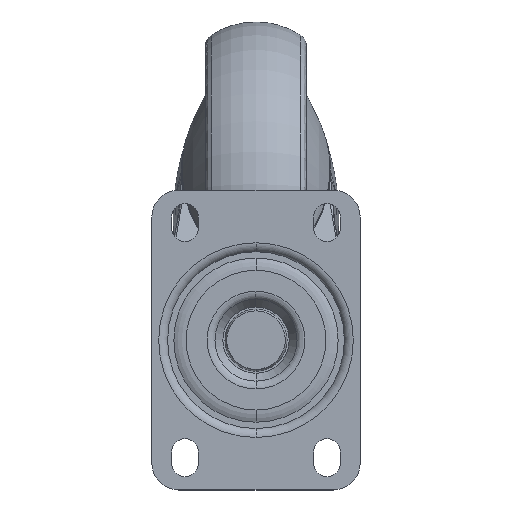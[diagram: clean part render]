
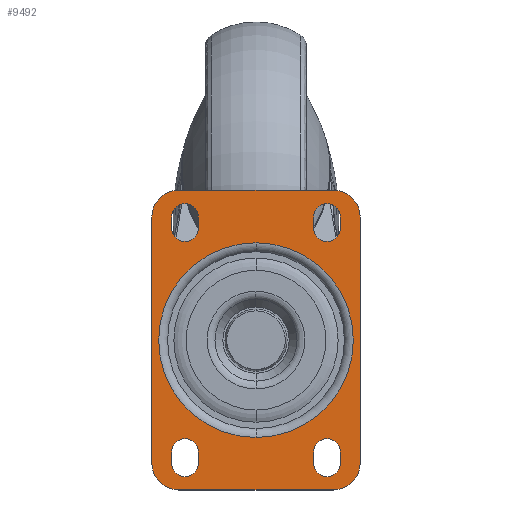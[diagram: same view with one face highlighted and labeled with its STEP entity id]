
A CAD part, top view. The second image highlights one B-rep face of the part: STEP entity #9492.
In plain terms, the highlighted planar face has unit normal (0, 0, 1).
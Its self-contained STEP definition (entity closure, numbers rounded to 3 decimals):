
#3222=DIRECTION('',(0.,-1.,0.));
#3223=VECTOR('',#3222,78.);
#3224=CARTESIAN_POINT('',(-33.,39.,54.3));
#3225=LINE('',#3224,#3223);
#3234=DIRECTION('',(-1.,0.,0.));
#3235=VECTOR('',#3234,49.);
#3236=CARTESIAN_POINT('',(24.5,47.5,54.3));
#3237=LINE('',#3236,#3235);
#3246=DIRECTION('',(0.,1.,0.));
#3247=VECTOR('',#3246,78.);
#3248=CARTESIAN_POINT('',(33.,-39.,54.3));
#3249=LINE('',#3248,#3247);
#3258=DIRECTION('',(1.,0.,0.));
#3259=VECTOR('',#3258,49.);
#3260=CARTESIAN_POINT('',(-24.5,-47.5,54.3));
#3261=LINE('',#3260,#3259);
#3270=CARTESIAN_POINT('',(-24.5,39.,54.3));
#3271=DIRECTION('',(0.,0.,-1.));
#3272=DIRECTION('',(-1.,0.,0.));
#3273=AXIS2_PLACEMENT_3D('',#3270,#3271,#3272);
#3275=CARTESIAN_POINT('',(24.5,39.,54.3));
#3276=DIRECTION('',(0.,0.,-1.));
#3277=DIRECTION('',(0.,1.,0.));
#3278=AXIS2_PLACEMENT_3D('',#3275,#3276,#3277);
#3280=CARTESIAN_POINT('',(24.5,-39.,54.3));
#3281=DIRECTION('',(0.,0.,-1.));
#3282=DIRECTION('',(1.,0.,0.));
#3283=AXIS2_PLACEMENT_3D('',#3280,#3281,#3282);
#3285=CARTESIAN_POINT('',(-24.5,-39.,54.3));
#3286=DIRECTION('',(0.,0.,-1.));
#3287=DIRECTION('',(0.,-1.,0.));
#3288=AXIS2_PLACEMENT_3D('',#3285,#3286,#3287);
#3290=CARTESIAN_POINT('',(-22.5,35.5,54.3));
#3291=DIRECTION('',(0.,0.,1.));
#3292=DIRECTION('',(-1.,0.,0.));
#3293=AXIS2_PLACEMENT_3D('',#3290,#3291,#3292);
#3295=CARTESIAN_POINT('',(-22.5,39.,54.3));
#3296=DIRECTION('',(0.,0.,1.));
#3297=DIRECTION('',(1.,0.,0.));
#3298=AXIS2_PLACEMENT_3D('',#3295,#3296,#3297);
#3300=CARTESIAN_POINT('',(22.5,35.5,54.3));
#3301=DIRECTION('',(0.,0.,1.));
#3302=DIRECTION('',(-1.,0.,0.));
#3303=AXIS2_PLACEMENT_3D('',#3300,#3301,#3302);
#3305=CARTESIAN_POINT('',(22.5,39.,54.3));
#3306=DIRECTION('',(0.,0.,1.));
#3307=DIRECTION('',(1.,0.,0.));
#3308=AXIS2_PLACEMENT_3D('',#3305,#3306,#3307);
#3310=CARTESIAN_POINT('',(-22.5,-39.,54.3));
#3311=DIRECTION('',(0.,0.,1.));
#3312=DIRECTION('',(-1.,0.,0.));
#3313=AXIS2_PLACEMENT_3D('',#3310,#3311,#3312);
#3315=CARTESIAN_POINT('',(-22.5,-35.5,54.3));
#3316=DIRECTION('',(0.,0.,1.));
#3317=DIRECTION('',(1.,0.,0.));
#3318=AXIS2_PLACEMENT_3D('',#3315,#3316,#3317);
#3320=CARTESIAN_POINT('',(22.5,-39.,54.3));
#3321=DIRECTION('',(0.,0.,1.));
#3322=DIRECTION('',(-1.,0.,0.));
#3323=AXIS2_PLACEMENT_3D('',#3320,#3321,#3322);
#3325=CARTESIAN_POINT('',(22.5,-35.5,54.3));
#3326=DIRECTION('',(0.,0.,1.));
#3327=DIRECTION('',(1.,0.,0.));
#3328=AXIS2_PLACEMENT_3D('',#3325,#3326,#3327);
#3330=CARTESIAN_POINT('',(0.,0.,54.3));
#3331=DIRECTION('',(0.,0.,1.));
#3332=DIRECTION('',(0.,1.,0.));
#3333=AXIS2_PLACEMENT_3D('',#3330,#3331,#3332);
#3335=CARTESIAN_POINT('',(0.,0.,54.3));
#3336=DIRECTION('',(0.,0.,1.));
#3337=DIRECTION('',(0.,-1.,0.));
#3338=AXIS2_PLACEMENT_3D('',#3335,#3336,#3337);
#3348=DIRECTION('',(0.,-1.,0.));
#3349=VECTOR('',#3348,3.5);
#3350=CARTESIAN_POINT('',(-18.25,39.,54.3));
#3351=LINE('',#3350,#3349);
#3360=DIRECTION('',(0.,1.,0.));
#3361=VECTOR('',#3360,3.5);
#3362=CARTESIAN_POINT('',(-26.75,35.5,54.3));
#3363=LINE('',#3362,#3361);
#3372=DIRECTION('',(0.,-1.,0.));
#3373=VECTOR('',#3372,3.5);
#3374=CARTESIAN_POINT('',(26.75,39.,54.3));
#3375=LINE('',#3374,#3373);
#3384=DIRECTION('',(0.,1.,0.));
#3385=VECTOR('',#3384,3.5);
#3386=CARTESIAN_POINT('',(18.25,35.5,54.3));
#3387=LINE('',#3386,#3385);
#3396=DIRECTION('',(0.,-1.,0.));
#3397=VECTOR('',#3396,3.5);
#3398=CARTESIAN_POINT('',(-18.25,-35.5,54.3));
#3399=LINE('',#3398,#3397);
#3408=DIRECTION('',(0.,1.,0.));
#3409=VECTOR('',#3408,3.5);
#3410=CARTESIAN_POINT('',(-26.75,-39.,54.3));
#3411=LINE('',#3410,#3409);
#3420=DIRECTION('',(0.,-1.,0.));
#3421=VECTOR('',#3420,3.5);
#3422=CARTESIAN_POINT('',(26.75,-35.5,54.3));
#3423=LINE('',#3422,#3421);
#3432=DIRECTION('',(0.,1.,0.));
#3433=VECTOR('',#3432,3.5);
#3434=CARTESIAN_POINT('',(18.25,-39.,54.3));
#3435=LINE('',#3434,#3433);
#5010=CARTESIAN_POINT('',(-33.,39.,54.3));
#5011=VERTEX_POINT('',#5010);
#5012=CARTESIAN_POINT('',(-33.,-39.,54.3));
#5013=VERTEX_POINT('',#5012);
#5014=CARTESIAN_POINT('',(-24.5,47.5,54.3));
#5015=VERTEX_POINT('',#5014);
#5016=CARTESIAN_POINT('',(24.5,47.5,54.3));
#5017=VERTEX_POINT('',#5016);
#5018=CARTESIAN_POINT('',(33.,39.,54.3));
#5019=VERTEX_POINT('',#5018);
#5020=CARTESIAN_POINT('',(33.,-39.,54.3));
#5021=VERTEX_POINT('',#5020);
#5022=CARTESIAN_POINT('',(24.5,-47.5,54.3));
#5023=VERTEX_POINT('',#5022);
#5024=CARTESIAN_POINT('',(-24.5,-47.5,54.3));
#5025=VERTEX_POINT('',#5024);
#5026=CARTESIAN_POINT('',(-26.75,35.5,54.3));
#5027=CARTESIAN_POINT('',(-18.25,35.5,54.3));
#5028=VERTEX_POINT('',#5026);
#5029=VERTEX_POINT('',#5027);
#5030=CARTESIAN_POINT('',(-18.25,39.,54.3));
#5031=VERTEX_POINT('',#5030);
#5032=CARTESIAN_POINT('',(-26.75,39.,54.3));
#5033=VERTEX_POINT('',#5032);
#5034=CARTESIAN_POINT('',(18.25,35.5,54.3));
#5035=CARTESIAN_POINT('',(26.75,35.5,54.3));
#5036=VERTEX_POINT('',#5034);
#5037=VERTEX_POINT('',#5035);
#5038=CARTESIAN_POINT('',(26.75,39.,54.3));
#5039=VERTEX_POINT('',#5038);
#5040=CARTESIAN_POINT('',(18.25,39.,54.3));
#5041=VERTEX_POINT('',#5040);
#5042=CARTESIAN_POINT('',(-26.75,-39.,54.3));
#5043=CARTESIAN_POINT('',(-18.25,-39.,54.3));
#5044=VERTEX_POINT('',#5042);
#5045=VERTEX_POINT('',#5043);
#5046=CARTESIAN_POINT('',(-18.25,-35.5,54.3));
#5047=VERTEX_POINT('',#5046);
#5048=CARTESIAN_POINT('',(-26.75,-35.5,54.3));
#5049=VERTEX_POINT('',#5048);
#5050=CARTESIAN_POINT('',(18.25,-39.,54.3));
#5051=CARTESIAN_POINT('',(26.75,-39.,54.3));
#5052=VERTEX_POINT('',#5050);
#5053=VERTEX_POINT('',#5051);
#5054=CARTESIAN_POINT('',(26.75,-35.5,54.3));
#5055=VERTEX_POINT('',#5054);
#5056=CARTESIAN_POINT('',(18.25,-35.5,54.3));
#5057=VERTEX_POINT('',#5056);
#5058=CARTESIAN_POINT('',(0.,30.853,54.3));
#5059=CARTESIAN_POINT('',(0.,-30.853,54.3));
#5060=VERTEX_POINT('',#5058);
#5061=VERTEX_POINT('',#5059);
#9431=CARTESIAN_POINT('',(0.,0.,54.3));
#9432=DIRECTION('',(0.,0.,1.));
#9433=DIRECTION('',(0.,1.,0.));
#9434=AXIS2_PLACEMENT_3D('',#9431,#9432,#9433);
#9435=PLANE('',#9434);
#9436=ORIENTED_EDGE('',*,*,#9327,.F.);
#9437=ORIENTED_EDGE('',*,*,#9342,.T.);
#9438=ORIENTED_EDGE('',*,*,#9356,.F.);
#9439=ORIENTED_EDGE('',*,*,#9370,.T.);
#9440=ORIENTED_EDGE('',*,*,#9384,.F.);
#9441=ORIENTED_EDGE('',*,*,#9398,.T.);
#9442=ORIENTED_EDGE('',*,*,#9412,.F.);
#9443=ORIENTED_EDGE('',*,*,#9425,.T.);
#9444=EDGE_LOOP('',(#9436,#9437,#9438,#9439,#9440,#9441,#9442,#9443));
#9445=FACE_OUTER_BOUND('',#9444,.F.);
#9447=ORIENTED_EDGE('',*,*,#9446,.T.);
#9449=ORIENTED_EDGE('',*,*,#9448,.F.);
#9451=ORIENTED_EDGE('',*,*,#9450,.T.);
#9453=ORIENTED_EDGE('',*,*,#9452,.F.);
#9454=EDGE_LOOP('',(#9447,#9449,#9451,#9453));
#9455=FACE_BOUND('',#9454,.F.);
#9457=ORIENTED_EDGE('',*,*,#9456,.T.);
#9459=ORIENTED_EDGE('',*,*,#9458,.F.);
#9461=ORIENTED_EDGE('',*,*,#9460,.T.);
#9463=ORIENTED_EDGE('',*,*,#9462,.F.);
#9464=EDGE_LOOP('',(#9457,#9459,#9461,#9463));
#9465=FACE_BOUND('',#9464,.F.);
#9467=ORIENTED_EDGE('',*,*,#9466,.T.);
#9469=ORIENTED_EDGE('',*,*,#9468,.F.);
#9471=ORIENTED_EDGE('',*,*,#9470,.T.);
#9473=ORIENTED_EDGE('',*,*,#9472,.F.);
#9474=EDGE_LOOP('',(#9467,#9469,#9471,#9473));
#9475=FACE_BOUND('',#9474,.F.);
#9477=ORIENTED_EDGE('',*,*,#9476,.T.);
#9479=ORIENTED_EDGE('',*,*,#9478,.F.);
#9481=ORIENTED_EDGE('',*,*,#9480,.T.);
#9483=ORIENTED_EDGE('',*,*,#9482,.F.);
#9484=EDGE_LOOP('',(#9477,#9479,#9481,#9483));
#9485=FACE_BOUND('',#9484,.F.);
#9487=ORIENTED_EDGE('',*,*,#9486,.T.);
#9489=ORIENTED_EDGE('',*,*,#9488,.T.);
#9490=EDGE_LOOP('',(#9487,#9489));
#9491=FACE_BOUND('',#9490,.F.);
#9492=ADVANCED_FACE('',(#9445,#9455,#9465,#9475,#9485,#9491),#9435,.T.);
#3274=CIRCLE('',#3273,8.5);
#3279=CIRCLE('',#3278,8.5);
#3284=CIRCLE('',#3283,8.5);
#3289=CIRCLE('',#3288,8.5);
#3294=CIRCLE('',#3293,4.25);
#3299=CIRCLE('',#3298,4.25);
#3304=CIRCLE('',#3303,4.25);
#3309=CIRCLE('',#3308,4.25);
#3314=CIRCLE('',#3313,4.25);
#3319=CIRCLE('',#3318,4.25);
#3324=CIRCLE('',#3323,4.25);
#3329=CIRCLE('',#3328,4.25);
#3334=CIRCLE('',#3333,30.853);
#3339=CIRCLE('',#3338,30.853);
#9327=EDGE_CURVE('',#5011,#5013,#3225,.T.);
#9342=EDGE_CURVE('',#5011,#5015,#3274,.T.);
#9356=EDGE_CURVE('',#5017,#5015,#3237,.T.);
#9370=EDGE_CURVE('',#5017,#5019,#3279,.T.);
#9384=EDGE_CURVE('',#5021,#5019,#3249,.T.);
#9398=EDGE_CURVE('',#5021,#5023,#3284,.T.);
#9412=EDGE_CURVE('',#5025,#5023,#3261,.T.);
#9425=EDGE_CURVE('',#5025,#5013,#3289,.T.);
#9446=EDGE_CURVE('',#5028,#5029,#3294,.T.);
#9448=EDGE_CURVE('',#5031,#5029,#3351,.T.);
#9450=EDGE_CURVE('',#5031,#5033,#3299,.T.);
#9452=EDGE_CURVE('',#5028,#5033,#3363,.T.);
#9456=EDGE_CURVE('',#5036,#5037,#3304,.T.);
#9458=EDGE_CURVE('',#5039,#5037,#3375,.T.);
#9460=EDGE_CURVE('',#5039,#5041,#3309,.T.);
#9462=EDGE_CURVE('',#5036,#5041,#3387,.T.);
#9466=EDGE_CURVE('',#5044,#5045,#3314,.T.);
#9468=EDGE_CURVE('',#5047,#5045,#3399,.T.);
#9470=EDGE_CURVE('',#5047,#5049,#3319,.T.);
#9472=EDGE_CURVE('',#5044,#5049,#3411,.T.);
#9476=EDGE_CURVE('',#5052,#5053,#3324,.T.);
#9478=EDGE_CURVE('',#5055,#5053,#3423,.T.);
#9480=EDGE_CURVE('',#5055,#5057,#3329,.T.);
#9482=EDGE_CURVE('',#5052,#5057,#3435,.T.);
#9486=EDGE_CURVE('',#5060,#5061,#3334,.T.);
#9488=EDGE_CURVE('',#5061,#5060,#3339,.T.);
